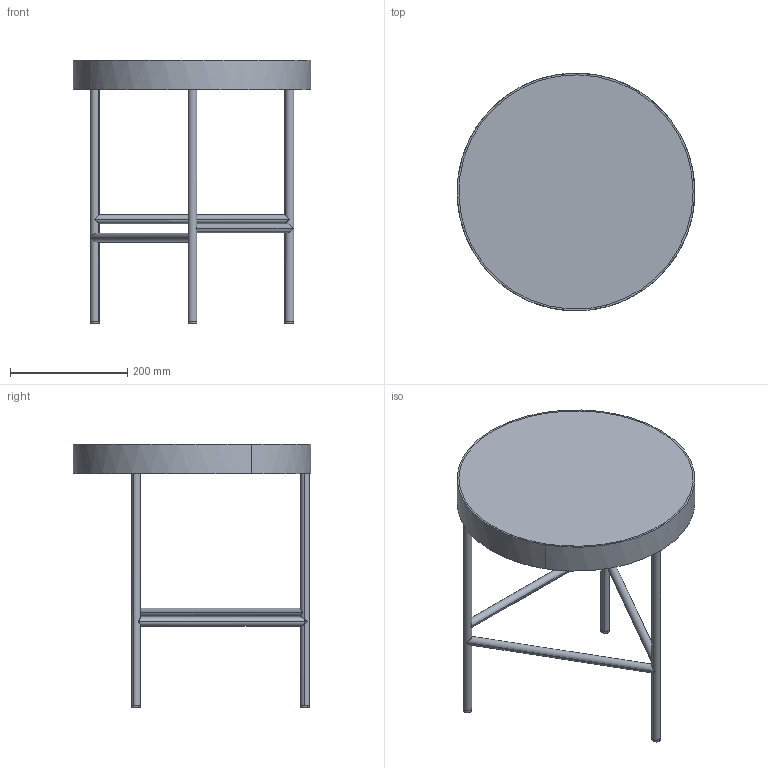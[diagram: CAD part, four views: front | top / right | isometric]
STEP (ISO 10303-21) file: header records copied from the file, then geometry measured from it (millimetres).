
FILE_DESCRIPTION(/* description */ (''),/* implementation_level */ '2;1');
FILE_NAME(/* name */ 'MMY2VC~M',/* time_stamp */ '2018-04-03T16:31:21+02:00',/* author */ (''),/* organization */ (''),/* preprocessor_version */ 'ST-DEVELOPER v15',/* originating_system */ '',/* authorisation */ '');
FILE_SCHEMA (('AUTOMOTIVE_DESIGN'));
Length unit declared in the file: millimetre
Products named in the file (1): Document
Bounding box: 405.95 x 406 x 449.31 mm (x, y, z)
Volume: 3097050.4 mm3; surface area: 595342.4 mm2
Topology: 11 solids, 15 shells, 62 faces, 129 edges, 90 vertices
Faces by surface type: bspline 62
Entity records: 4109 total; most frequent: CARTESIAN_POINT 2547, ORIENTED_EDGE 234, PCURVE 234, DEFINITIONAL_REPRESENTATION 234, B_SPLINE_CURVE_WITH_KNOTS 222, SURFACE_CURVE 129, EDGE_CURVE 129, VERTEX_POINT 90
